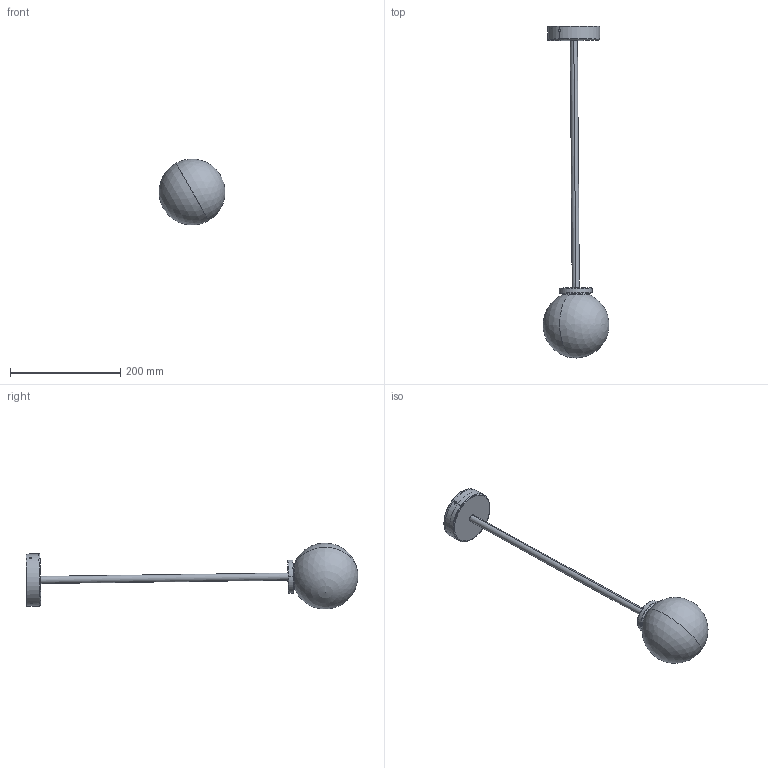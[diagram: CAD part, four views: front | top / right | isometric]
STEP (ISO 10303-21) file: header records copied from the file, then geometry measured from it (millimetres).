
FILE_DESCRIPTION (( 'STEP AP214' ), '1' );
FILE_NAME ('Mezzo Pendant_Customer CAD.STEP', '2015-05-15T09:39:45', ( '' ), ( '' ), 'SwSTEP 2.0', 'SolidWorks 2012', '' );
FILE_SCHEMA (( 'AUTOMOTIVE_DESIGN' ));
Length unit declared in the file: millimetre
Products named in the file (11): ZINTEC SLOTTED BACK PLATE (3 HOLE)_mezzo; Mezzo BESA BOX COVER; Mezzo Shroud; Glass Ball; Assem1; MirrorMirrorPart1; MirrorPart1; Part1; spring clip; SLIM SPINNING (9MM)2; Mezzo Pendant_Customer CAD
Assembly tree (11 placements, depth 3):
  Mezzo Pendant_Customer CAD
    SLIM SPINNING (9MM)2
    Assem1
      spring clip
      Part1
      MirrorPart1  x2
      MirrorMirrorPart1
    Glass Ball
    Mezzo Shroud
    Mezzo BESA BOX COVER
    ZINTEC SLOTTED BACK PLATE (3 HOLE)_mezzo
Bounding box: 119.77 x 602.67 x 119.58 mm (x, y, z)
Volume: 132182 mm3; surface area: 179213.8 mm2
Topology: 10 solids, 10 shells, 167 faces, 408 edges, 260 vertices
Faces by surface type: cylinder 106, plane 33, torus 20, sphere 4, cone 4
Entity records: 5824 total; most frequent: CARTESIAN_POINT 1563, DIRECTION 873, ORIENTED_EDGE 754, EDGE_CURVE 377, AXIS2_PLACEMENT_3D 377, VERTEX_POINT 241, CIRCLE 205, EDGE_LOOP 198
